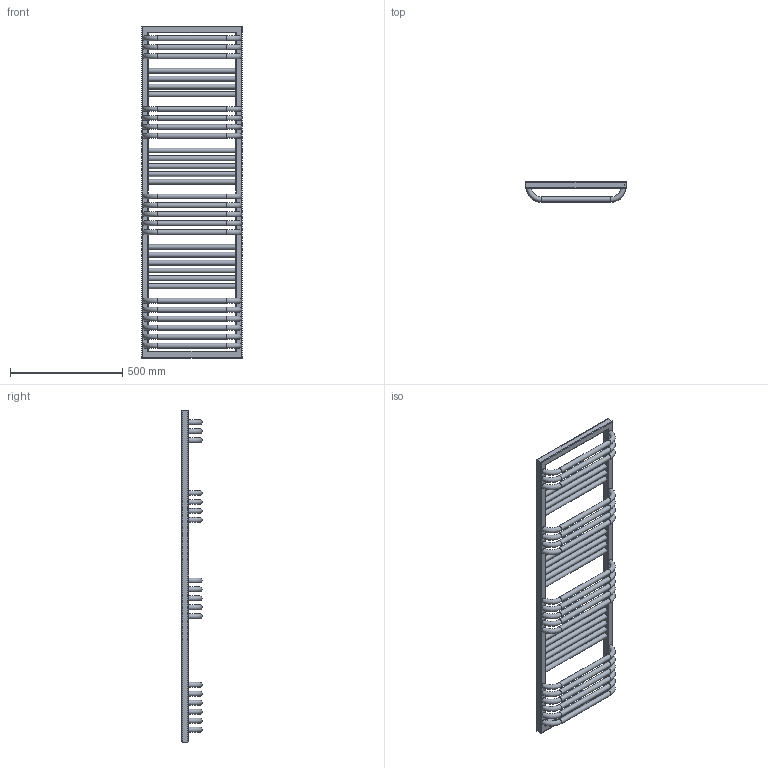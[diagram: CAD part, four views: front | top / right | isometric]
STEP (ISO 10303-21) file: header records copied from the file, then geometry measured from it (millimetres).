
FILE_DESCRIPTION((''),'2;1');
FILE_NAME('Z:\R\G\P\RGPH18 - Grzejnik POC\Work\Inventor\POC 1-6-8 v2.0\Marketing\AutoCad 3D\POC-1480-450-1-6-8.stp','2012-07-12T14:39:20',('KurKa'),(''),'Autodesk Inventor 2012','Autodesk Inventor 2012','');
FILE_SCHEMA(('AUTOMOTIVE_DESIGN { 1 0 10303 214 1 1 1 1 }'));
Length unit declared in the file: millimetre
Products named in the file (1): POC-1480-450-1-6-8
Bounding box: 450 x 90 x 1480 mm (x, y, z)
Volume: 8780220.8 mm3; surface area: 1396857 mm2
Topology: 1 solids, 1 shells, 104 faces, 278 edges, 179 vertices
Faces by surface type: cylinder 52, torus 39, plane 13
Full cylindrical faces by diameter (mm): 18.631 x3, 22 x33
Entity records: 4972 total; most frequent: CARTESIAN_POINT 2755, DIRECTION 432, ORIENTED_EDGE 334, EDGE_LOOP 250, AXIS2_PLACEMENT_3D 196, EDGE_CURVE 167, FACE_BOUND 146, VERTEX_POINT 143
